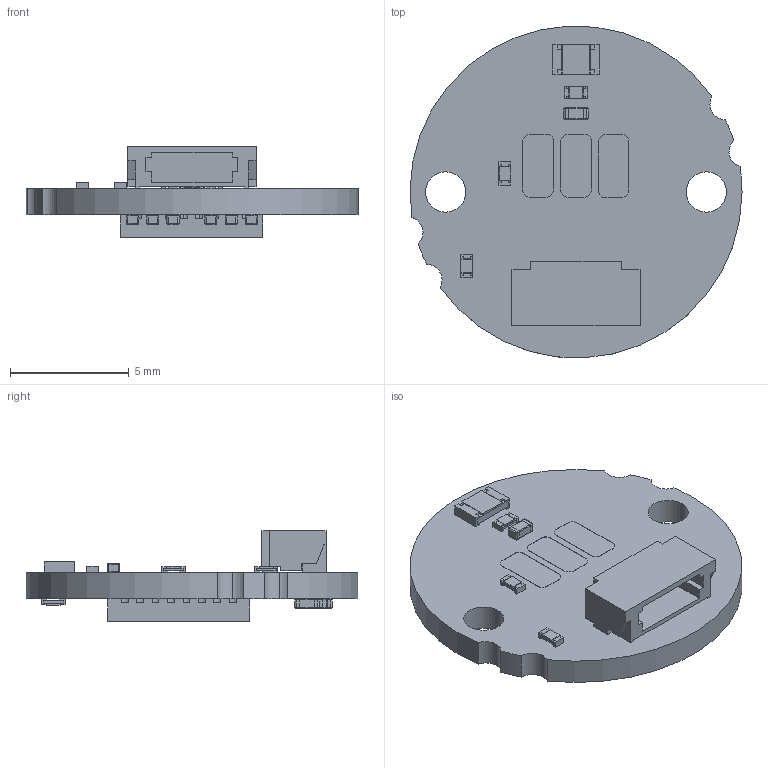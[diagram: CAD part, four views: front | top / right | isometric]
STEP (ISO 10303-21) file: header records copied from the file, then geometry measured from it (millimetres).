
FILE_DESCRIPTION (( 'STEP AP214' ), '1' );
FILE_NAME ('MODM435_dodelan.STEP', '2024-01-10T07:29:55', ( '' ), ( '' ), 'SwSTEP 2.0', 'SolidWorks 2022', '' );
FILE_SCHEMA (( 'AUTOMOTIVE_DESIGN' ));
Length unit declared in the file: millimetre
Products named in the file (1): MODM435_dodelan
Bounding box: 14 x 13.98 x 3.82 mm (x, y, z)
Volume: 216.5 mm3; surface area: 587.5 mm2
Topology: 33 solids, 33 shells, 1004 faces, 2610 edges, 1630 vertices
Faces by surface type: plane 749, cylinder 199, bspline 56
Entity records: 42730 total; most frequent: CARTESIAN_POINT 7485, ORIENTED_EDGE 5108, DIRECTION 4514, EDGE_CURVE 2554, VECTOR 2156, LINE 2156, VERTEX_POINT 1630, AXIS2_PLACEMENT_3D 1179
